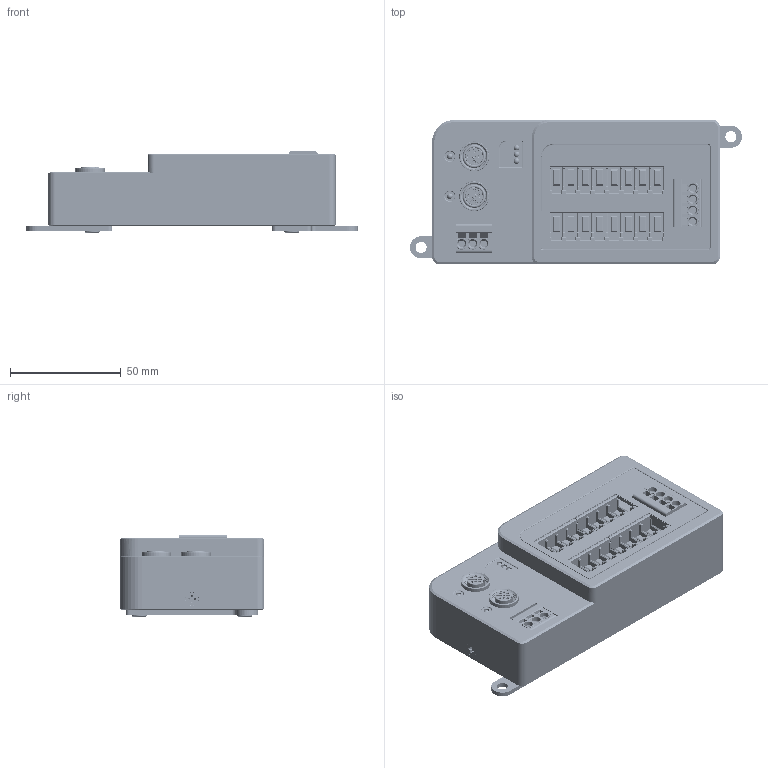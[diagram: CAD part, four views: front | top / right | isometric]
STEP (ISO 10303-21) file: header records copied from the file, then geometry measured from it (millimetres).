
FILE_DESCRIPTION((''),'2;1');
FILE_NAME('MR5101-EA_ASM_40_ASM_1_ASM','2025-06-23T17:38:09',('Administrator'),('yulong DESIGN'),'CREO PARAMETRIC BY PTC INC, 2021023','CREO PARAMETRIC BY PTC INC, 2021023','');
FILE_SCHEMA(('AUTOMOTIVE_DESIGN { 1 0 10303 214 1 1 1 1 }'));
Products named in the file (20): MR5101-EA_SKEL_3_1; FRONT_COVER_MR5101_36_1; REAR_COVER_MR5101_19_1; FRONT_PCBA_MR5101_24_1; REAR_PCBA_COMMON_26_1; LIGHT_PIPE_11D7_PWR_13_1; LIGHT_PIPE_10_IO_6_1; MYLAR_NUBER_INDICATOR_MR5101_17; SCREW_PH_M2D5X5_4_1; SCREW_FLAT_M3X8_6_1; SCREW_PH_M4X6_3_1; SCREWS_ASM_2_ASM_1_ASM; EK-B403_1; DINKLE_0177-5304_1; DINKLE_0177-5303_1; _5_1__10001_101_13; _5_2__10001_101_13; M12D_10001_ASM_101_ASM_13_ASM; CLW-1_18; MR5101-EA_ASM_40_ASM_1_ASM
Assembly tree (54 placements, depth 3):
  MR5101-EA_ASM_40_ASM_1_ASM
    MR5101-EA_SKEL_3_1
    FRONT_COVER_MR5101_36_1
    REAR_COVER_MR5101_19_1
    FRONT_PCBA_MR5101_24_1
    REAR_PCBA_COMMON_26_1
    LIGHT_PIPE_11D7_PWR_13_1  x5
    LIGHT_PIPE_10_IO_6_1  x16
    MYLAR_NUBER_INDICATOR_MR5101_17
    SCREWS_ASM_2_ASM_1_ASM
      SCREW_PH_M2D5X5_4_1  x8
      SCREW_FLAT_M3X8_6_1  x2
      SCREW_PH_M4X6_3_1  x4
    EK-B403_1  x4
    DINKLE_0177-5304_1
    DINKLE_0177-5303_1
    M12D_10001_ASM_101_ASM_13_ASM  x2
      _5_1__10001_101_13
      _5_2__10001_101_13
    CLW-1_18  x2
Bounding box: 149.95 x 65 x 37.19 mm (x, y, z)
Volume: 106257.2 mm3; surface area: 116003.1 mm2
Topology: 52 solids, 203 shells, 5421 faces, 16300 edges, 11259 vertices
Faces by surface type: plane 3108, cylinder 1479, cone 359, torus 196, bspline 196, sphere 57, revolution 24, extrusion 2
Entity records: 134268 total; most frequent: CARTESIAN_POINT 41327, ORIENTED_EDGE 15534, DIRECTION 14702, EDGE_CURVE 8765, VERTEX_POINT 6351, AXIS2_PLACEMENT_3D 4943, VECTOR 4812, LINE 4810
